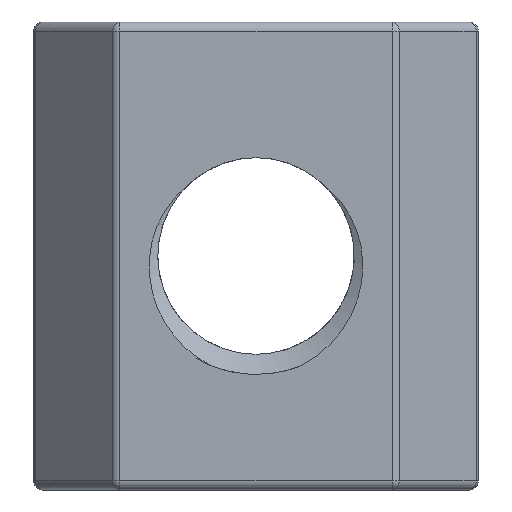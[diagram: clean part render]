
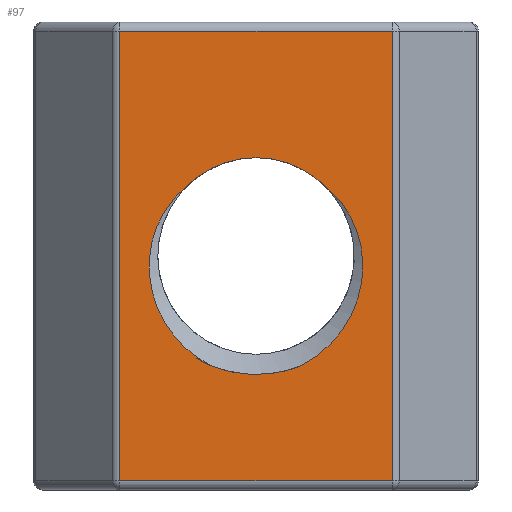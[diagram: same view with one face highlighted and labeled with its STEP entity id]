
A CAD part, front view. The second image highlights one B-rep face of the part: STEP entity #97.
In plain terms, the highlighted planar face has unit normal (0, -1, 0).
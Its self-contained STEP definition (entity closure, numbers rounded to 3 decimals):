
#43 = ORIENTED_EDGE ( 'NONE', *, *, #108, .T. ) ;
#62 = VECTOR ( 'NONE', #1030, 1000. ) ;
#80 = VERTEX_POINT ( 'NONE', #2685 ) ;
#88 = VERTEX_POINT ( 'NONE', #365 ) ;
#89 = CIRCLE ( 'NONE', #1706, 2.1 ) ;
#97 = ADVANCED_FACE ( 'NONE', ( #112, #318 ), #992, .F. ) ;
#108 = EDGE_CURVE ( 'NONE', #2558, #88, #1093, .T. ) ;
#112 = FACE_OUTER_BOUND ( 'NONE', #360, .T. ) ;
#121 = B_SPLINE_CURVE_WITH_KNOTS ( 'NONE', 3,
 ( #2515, #1861, #1179, #2709, #991, #541, #1413, #1165, #2486, #2719, #1388, #778, #2287, #731, #743, #2246, #496, #316 ),
 .UNSPECIFIED., .F., .F.,
 ( 4, 2, 2, 2, 2, 2, 2, 2, 4 ),
 ( 0., 0.001, 0.001, 0.002, 0.002, 0.003, 0.003, 0.004, 0.005 ),
 .UNSPECIFIED. ) ;
#127 = DIRECTION ( 'NONE',  ( 0., 0., 1. ) ) ;
#253 = EDGE_CURVE ( 'NONE', #893, #443, #2527, .T. ) ;
#303 = DIRECTION ( 'NONE',  ( -1., 0., 0. ) ) ;
#304 = CARTESIAN_POINT ( 'NONE',  ( 3., -4.5, 0.2 ) ) ;
#316 = CARTESIAN_POINT ( 'NONE',  ( -0.969, -4.5, 2.66 ) ) ;
#318 = FACE_BOUND ( 'NONE', #1095, .T. ) ;
#360 = EDGE_LOOP ( 'NONE', ( #1372, #2850, #1982, #2307 ) ) ;
#364 = CARTESIAN_POINT ( 'NONE',  ( -2.91, -4.5, 10. ) ) ;
#365 = CARTESIAN_POINT ( 'NONE',  ( 0., -4.5, 7.1 ) ) ;
#377 = CARTESIAN_POINT ( 'NONE',  ( -0.969, -4.5, 2.66 ) ) ;
#388 = DIRECTION ( 'NONE',  ( 0., 0., -1. ) ) ;
#399 = CARTESIAN_POINT ( 'NONE',  ( -0.167, -4.5, 2.467 ) ) ;
#443 = VERTEX_POINT ( 'NONE', #481 ) ;
#472 = CARTESIAN_POINT ( 'NONE',  ( 1.941, -4.5, 3.549 ) ) ;
#479 = CARTESIAN_POINT ( 'NONE',  ( 1.485, -4.5, 6.485 ) ) ;
#481 = CARTESIAN_POINT ( 'NONE',  ( 2.91, -4.5, 0.2 ) ) ;
#496 = CARTESIAN_POINT ( 'NONE',  ( -1.139, -4.5, 2.749 ) ) ;
#527 = LINE ( 'NONE', #2073, #1028 ) ;
#540 = EDGE_CURVE ( 'NONE', #88, #2833, #89, .T. ) ;
#541 = CARTESIAN_POINT ( 'NONE',  ( -2.21, -4.5, 5.39 ) ) ;
#688 = CARTESIAN_POINT ( 'NONE',  ( 1.988, -4.5, 5.911 ) ) ;
#731 = CARTESIAN_POINT ( 'NONE',  ( -1.717, -4.5, 3.244 ) ) ;
#743 = CARTESIAN_POINT ( 'NONE',  ( -1.585, -4.5, 3.102 ) ) ;
#760 = VERTEX_POINT ( 'NONE', #1771 ) ;
#778 = CARTESIAN_POINT ( 'NONE',  ( -2.035, -4.5, 3.717 ) ) ;
#789 = CARTESIAN_POINT ( 'NONE',  ( -1.485, -4.5, 6.485 ) ) ;
#831 = DIRECTION ( 'NONE',  ( 0., 0., 1. ) ) ;
#893 = VERTEX_POINT ( 'NONE', #1812 ) ;
#931 = LINE ( 'NONE', #1830, #2311 ) ;
#953 = B_SPLINE_CURVE_WITH_KNOTS ( 'NONE', 3,
 ( #1977, #2205, #1762, #2635, #1309, #472, #2193, #2005, #2427, #1989, #1321, #2860, #1962, #2176, #688, #1351, #1078, #2163 ),
 .UNSPECIFIED., .F., .F.,
 ( 4, 2, 2, 2, 2, 2, 2, 2, 4 ),
 ( 0., 0.001, 0.001, 0.002, 0.002, 0.003, 0.003, 0.004, 0.005 ),
 .UNSPECIFIED. ) ;
#960 = B_SPLINE_CURVE_WITH_KNOTS ( 'NONE', 3,
 ( #377, #1264, #1485, #2378, #399, #2089, #1662, #1069 ),
 .UNSPECIFIED., .F., .F.,
 ( 4, 2, 2, 4 ),
 ( 0., 0.001, 0.001, 0.002 ),
 .UNSPECIFIED. ) ;
#975 = CARTESIAN_POINT ( 'NONE',  ( 0.969, -4.5, 2.66 ) ) ;
#991 = CARTESIAN_POINT ( 'NONE',  ( -2.076, -4.5, 5.745 ) ) ;
#992 = PLANE ( 'NONE',  #2796 ) ;
#1028 = VECTOR ( 'NONE', #303, 1000. ) ;
#1030 = DIRECTION ( 'NONE',  ( 1., 0., 0. ) ) ;
#1069 = CARTESIAN_POINT ( 'NONE',  ( 0.969, -4.5, 2.66 ) ) ;
#1078 = CARTESIAN_POINT ( 'NONE',  ( 1.634, -4.5, 6.363 ) ) ;
#1093 = CIRCLE ( 'NONE', #2190, 2.1 ) ;
#1095 = EDGE_LOOP ( 'NONE', ( #2186, #2179, #1466, #43, #2290 ) ) ;
#1165 = CARTESIAN_POINT ( 'NONE',  ( -2.291, -4.5, 4.823 ) ) ;
#1179 = CARTESIAN_POINT ( 'NONE',  ( -1.763, -4.5, 6.225 ) ) ;
#1194 = DIRECTION ( 'NONE',  ( 0., 0., 1. ) ) ;
#1244 = CARTESIAN_POINT ( 'NONE',  ( 0., -4.5, 5. ) ) ;
#1264 = CARTESIAN_POINT ( 'NONE',  ( -0.815, -4.5, 2.596 ) ) ;
#1265 = VECTOR ( 'NONE', #388, 1000. ) ;
#1305 = EDGE_CURVE ( 'NONE', #2345, #2833, #953, .T. ) ;
#1309 = CARTESIAN_POINT ( 'NONE',  ( 1.717, -4.5, 3.243 ) ) ;
#1321 = CARTESIAN_POINT ( 'NONE',  ( 2.29, -4.5, 4.822 ) ) ;
#1351 = CARTESIAN_POINT ( 'NONE',  ( 1.765, -4.5, 6.222 ) ) ;
#1372 = ORIENTED_EDGE ( 'NONE', *, *, #2371, .T. ) ;
#1388 = CARTESIAN_POINT ( 'NONE',  ( -2.18, -4.5, 4.07 ) ) ;
#1413 = CARTESIAN_POINT ( 'NONE',  ( -2.254, -4.5, 5.201 ) ) ;
#1466 = ORIENTED_EDGE ( 'NONE', *, *, #2450, .F. ) ;
#1485 = CARTESIAN_POINT ( 'NONE',  ( -0.655, -4.5, 2.548 ) ) ;
#1634 = DIRECTION ( 'NONE',  ( -1., 0., 0. ) ) ;
#1662 = CARTESIAN_POINT ( 'NONE',  ( 0.661, -4.5, 2.532 ) ) ;
#1706 = AXIS2_PLACEMENT_3D ( 'NONE', #1244, #2162, #831 ) ;
#1762 = CARTESIAN_POINT ( 'NONE',  ( 1.296, -4.5, 2.855 ) ) ;
#1771 = CARTESIAN_POINT ( 'NONE',  ( -0.969, -4.5, 2.66 ) ) ;
#1785 = VERTEX_POINT ( 'NONE', #2381 ) ;
#1812 = CARTESIAN_POINT ( 'NONE',  ( -2.91, -4.5, 0.2 ) ) ;
#1830 = CARTESIAN_POINT ( 'NONE',  ( 2.91, -4.5, 10. ) ) ;
#1861 = CARTESIAN_POINT ( 'NONE',  ( -1.634, -4.5, 6.363 ) ) ;
#1962 = CARTESIAN_POINT ( 'NONE',  ( 2.211, -4.5, 5.386 ) ) ;
#1977 = CARTESIAN_POINT ( 'NONE',  ( 0.969, -4.5, 2.66 ) ) ;
#1982 = ORIENTED_EDGE ( 'NONE', *, *, #253, .T. ) ;
#1989 = CARTESIAN_POINT ( 'NONE',  ( 2.286, -4.5, 4.628 ) ) ;
#2005 = CARTESIAN_POINT ( 'NONE',  ( 2.18, -4.5, 4.069 ) ) ;
#2057 = CARTESIAN_POINT ( 'NONE',  ( 0., -4.5, 5. ) ) ;
#2073 = CARTESIAN_POINT ( 'NONE',  ( -3., -4.5, 9.8 ) ) ;
#2089 = CARTESIAN_POINT ( 'NONE',  ( 0.334, -4.5, 2.467 ) ) ;
#2162 = DIRECTION ( 'NONE',  ( 0., 1., 0. ) ) ;
#2163 = CARTESIAN_POINT ( 'NONE',  ( 1.485, -4.5, 6.485 ) ) ;
#2176 = CARTESIAN_POINT ( 'NONE',  ( 2.077, -4.5, 5.744 ) ) ;
#2179 = ORIENTED_EDGE ( 'NONE', *, *, #2590, .F. ) ;
#2186 = ORIENTED_EDGE ( 'NONE', *, *, #1305, .F. ) ;
#2190 = AXIS2_PLACEMENT_3D ( 'NONE', #2057, #2787, #127 ) ;
#2193 = CARTESIAN_POINT ( 'NONE',  ( 2.034, -4.5, 3.714 ) ) ;
#2205 = CARTESIAN_POINT ( 'NONE',  ( 1.14, -4.5, 2.749 ) ) ;
#2246 = CARTESIAN_POINT ( 'NONE',  ( -1.296, -4.5, 2.855 ) ) ;
#2287 = CARTESIAN_POINT ( 'NONE',  ( -1.941, -4.5, 3.549 ) ) ;
#2290 = ORIENTED_EDGE ( 'NONE', *, *, #540, .T. ) ;
#2307 = ORIENTED_EDGE ( 'NONE', *, *, #2400, .T. ) ;
#2311 = VECTOR ( 'NONE', #1194, 1000. ) ;
#2345 = VERTEX_POINT ( 'NONE', #975 ) ;
#2366 = LINE ( 'NONE', #364, #1265 ) ;
#2371 = EDGE_CURVE ( 'NONE', #80, #1785, #527, .T. ) ;
#2378 = CARTESIAN_POINT ( 'NONE',  ( -0.331, -4.5, 2.483 ) ) ;
#2381 = CARTESIAN_POINT ( 'NONE',  ( -2.91, -4.5, 9.8 ) ) ;
#2400 = EDGE_CURVE ( 'NONE', #443, #80, #931, .T. ) ;
#2427 = CARTESIAN_POINT ( 'NONE',  ( 2.23, -4.5, 4.252 ) ) ;
#2450 = EDGE_CURVE ( 'NONE', #2558, #760, #121, .T. ) ;
#2486 = CARTESIAN_POINT ( 'NONE',  ( -2.286, -4.5, 4.631 ) ) ;
#2504 = CARTESIAN_POINT ( 'NONE',  ( -3., -4.5, 10. ) ) ;
#2515 = CARTESIAN_POINT ( 'NONE',  ( -1.485, -4.5, 6.485 ) ) ;
#2527 = LINE ( 'NONE', #304, #62 ) ;
#2529 = EDGE_CURVE ( 'NONE', #1785, #893, #2366, .T. ) ;
#2558 = VERTEX_POINT ( 'NONE', #789 ) ;
#2590 = EDGE_CURVE ( 'NONE', #760, #2345, #960, .T. ) ;
#2635 = CARTESIAN_POINT ( 'NONE',  ( 1.585, -4.5, 3.102 ) ) ;
#2685 = CARTESIAN_POINT ( 'NONE',  ( 2.91, -4.5, 9.8 ) ) ;
#2709 = CARTESIAN_POINT ( 'NONE',  ( -1.985, -4.5, 5.915 ) ) ;
#2719 = CARTESIAN_POINT ( 'NONE',  ( -2.23, -4.5, 4.253 ) ) ;
#2775 = DIRECTION ( 'NONE',  ( 0., 1., 0. ) ) ;
#2787 = DIRECTION ( 'NONE',  ( 0., 1., 0. ) ) ;
#2796 = AXIS2_PLACEMENT_3D ( 'NONE', #2504, #2775, #1634 ) ;
#2833 = VERTEX_POINT ( 'NONE', #479 ) ;
#2850 = ORIENTED_EDGE ( 'NONE', *, *, #2529, .T. ) ;
#2860 = CARTESIAN_POINT ( 'NONE',  ( 2.254, -4.5, 5.199 ) ) ;
